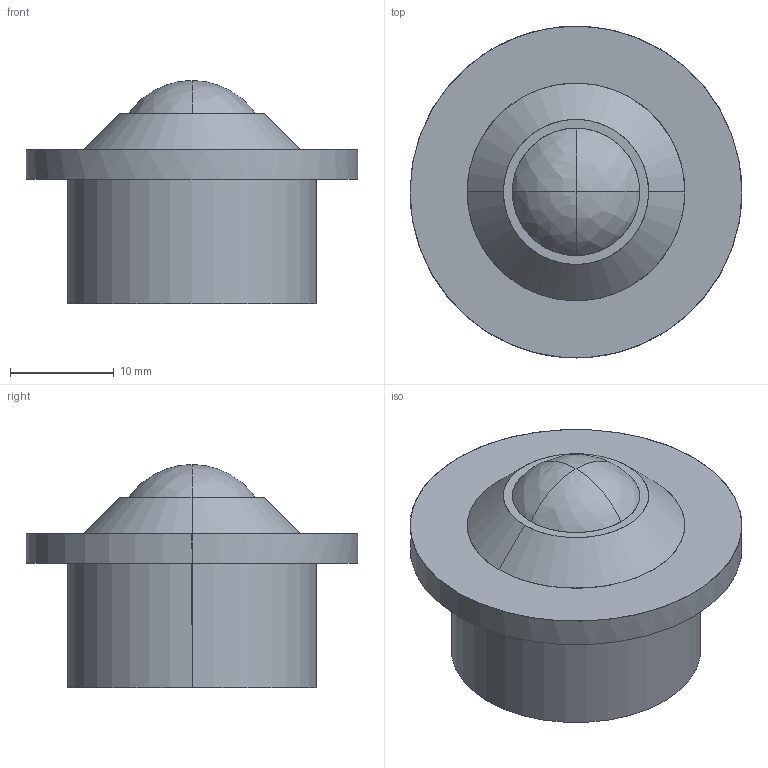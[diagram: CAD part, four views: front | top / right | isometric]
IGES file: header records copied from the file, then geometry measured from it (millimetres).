
Start section: START RECORD GO HERE.
Global section: file name: KU15B.igs; native system: DASSAULT SYSTEMES CATIA V5 R20 - www.3ds.com; preprocessor: CATIA Version 5 Release 20 ; author: Utente; organization: NB04-ASUS; date: 20201027.210414; units: millimetre
Bounding box: 32 x 32 x 21.5 mm (x, y, z)
Surface area: 4018.8 mm2 (no closed solid volume)
Topology: 0 solids, 0 shells, 26 faces, 107 edges, 92 vertices
Faces by surface type: revolution 22, plane 4
